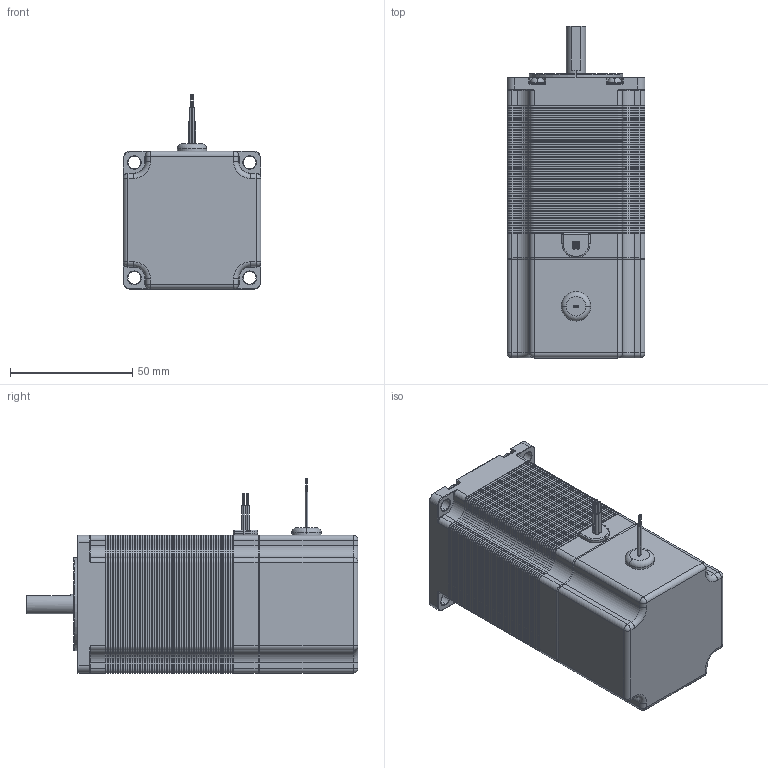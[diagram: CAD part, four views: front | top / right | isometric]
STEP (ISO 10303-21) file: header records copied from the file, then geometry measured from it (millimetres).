
FILE_DESCRIPTION (( 'STEP AP214' ), '1' );
FILE_NAME ('Nema 23 Stepper Motor length_76_mm_8mm_BRK.STEP', '2020-11-11T13:44:16', ( 'Moofasta' ), ( '' ), 'SwSTEP 2.0', 'SolidWorks 2020', '' );
FILE_SCHEMA (( 'AUTOMOTIVE_DESIGN' ));
Length unit declared in the file: millimetre
Products named in the file (1): Nema 23 Stepper Motor length_76_mm_8mm_BRK
Bounding box: 56.3 x 135.5 x 79.3 mm (x, y, z)
Volume: 329776.4 mm3; surface area: 333845.6 mm2
Topology: 68 solids, 69 shells, 4395 faces, 9992 edges, 5719 vertices
Faces by surface type: plane 2169, cone 1276, cylinder 822, torus 100, sphere 20, bspline 8
Entity records: 165338 total; most frequent: DIRECTION 21742, CARTESIAN_POINT 20533, ORIENTED_EDGE 19928, EDGE_CURVE 9964, AXIS2_PLACEMENT_3D 7464, VECTOR 6814, LINE 6814, VERTEX_POINT 5719
